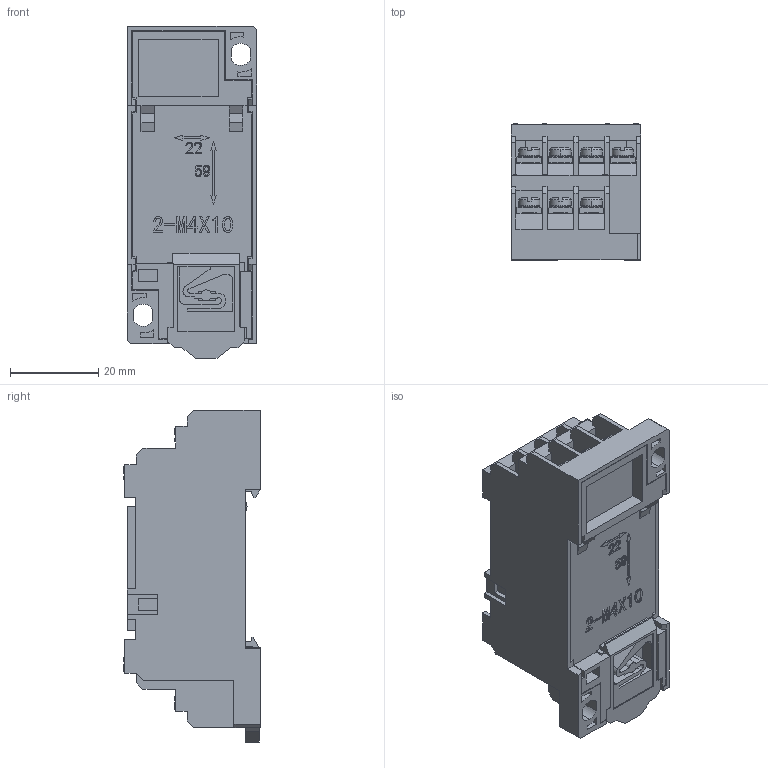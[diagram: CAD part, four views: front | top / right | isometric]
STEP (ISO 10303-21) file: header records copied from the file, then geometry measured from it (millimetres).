
FILE_DESCRIPTION (( 'STEP AP203' ), '1' );
FILE_NAME ('SYF14A-E 俋倛.STEP', '2023-01-13T03:48:03', ( '' ), ( '' ), 'SwSTEP 2.0', 'SolidWorks 2018', '' );
FILE_SCHEMA (( 'CONFIG_CONTROL_DESIGN' ));
Products named in the file (1): SYF14A-E 俋倛
Bounding box: 29.2 x 30.8 x 75.1 mm (x, y, z)
Volume: 43229.4 mm3; surface area: 18697.2 mm2
Topology: 1 solids, 1 shells, 3132 faces, 8638 edges, 5589 vertices
Faces by surface type: plane 1972, cylinder 621, cone 252, bspline 147, torus 140
Entity records: 112769 total; most frequent: CARTESIAN_POINT 36657, ORIENTED_EDGE 17220, DIRECTION 13916, EDGE_CURVE 8610, VERTEX_POINT 5589, VECTOR 5180, LINE 5180, AXIS2_PLACEMENT_3D 4368
